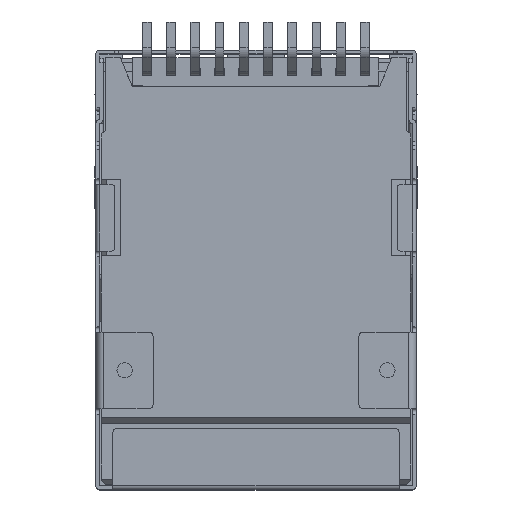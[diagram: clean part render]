
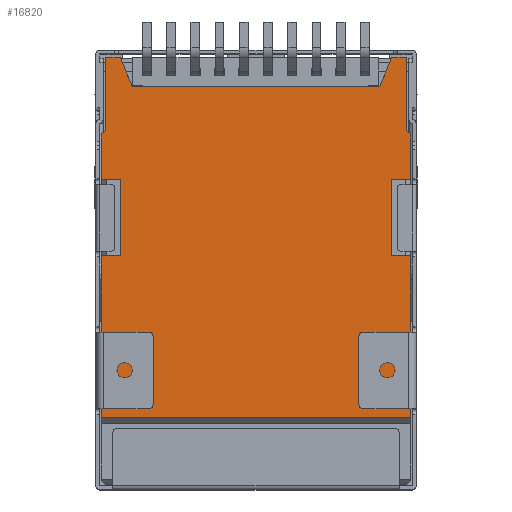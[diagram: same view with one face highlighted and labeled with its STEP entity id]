
A CAD part, top view. The second image highlights one B-rep face of the part: STEP entity #16820.
In plain terms, the highlighted planar face has unit normal (0, 0, 1).
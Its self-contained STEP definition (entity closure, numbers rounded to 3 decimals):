
#157=DIRECTION('',(0.,-1.,0.));
#158=VECTOR('',#157,3.8);
#159=CARTESIAN_POINT('',(-8.125,22.4,-3.6));
#160=LINE('',#159,#158);
#177=DIRECTION('',(0.,-1.,0.));
#178=VECTOR('',#177,3.8);
#179=CARTESIAN_POINT('',(7.625,22.4,-3.6));
#180=LINE('',#179,#178);
#181=DIRECTION('',(0.781,-0.625,0.));
#182=VECTOR('',#181,0.32);
#183=CARTESIAN_POINT('',(7.625,18.6,-3.6));
#184=LINE('',#183,#182);
#185=DIRECTION('',(0.,-1.,0.));
#186=VECTOR('',#185,2.4);
#187=CARTESIAN_POINT('',(7.875,18.4,-3.6));
#188=LINE('',#187,#186);
#189=DIRECTION('',(0.,-1.,0.));
#190=VECTOR('',#189,4.);
#191=CARTESIAN_POINT('',(6.875,16.,-3.6));
#192=LINE('',#191,#190);
#193=DIRECTION('',(1.,0.,0.));
#194=VECTOR('',#193,1.);
#195=CARTESIAN_POINT('',(6.875,12.,-3.6));
#196=LINE('',#195,#194);
#197=DIRECTION('',(0.,-1.,0.));
#198=VECTOR('',#197,8.45);
#199=CARTESIAN_POINT('',(7.875,12.,-3.6));
#200=LINE('',#199,#198);
#201=DIRECTION('',(1.,0.,0.));
#202=VECTOR('',#201,1.);
#203=CARTESIAN_POINT('',(-8.375,12.,-3.6));
#204=LINE('',#203,#202);
#205=DIRECTION('',(0.781,0.625,0.));
#206=VECTOR('',#205,0.32);
#207=CARTESIAN_POINT('',(-8.375,18.4,-3.6));
#208=LINE('',#207,#206);
#209=DIRECTION('',(1.,0.,0.));
#210=VECTOR('',#209,0.75);
#211=CARTESIAN_POINT('',(-8.125,22.4,-3.6));
#212=LINE('',#211,#210);
#213=DIRECTION('',(0.392,-0.92,0.));
#214=VECTOR('',#213,1.631);
#215=CARTESIAN_POINT('',(-7.375,22.4,-3.6));
#216=LINE('',#215,#214);
#217=DIRECTION('',(1.,0.,0.));
#218=VECTOR('',#217,12.97);
#219=CARTESIAN_POINT('',(-6.735,20.9,-3.6));
#220=LINE('',#219,#218);
#221=DIRECTION('',(0.392,0.92,0.));
#222=VECTOR('',#221,1.631);
#223=CARTESIAN_POINT('',(6.235,20.9,-3.6));
#224=LINE('',#223,#222);
#225=DIRECTION('',(1.,0.,0.));
#226=VECTOR('',#225,0.75);
#227=CARTESIAN_POINT('',(6.875,22.4,-3.6));
#228=LINE('',#227,#226);
#317=DIRECTION('',(1.,0.,0.));
#318=VECTOR('',#317,1.);
#319=CARTESIAN_POINT('',(6.875,16.,-3.6));
#320=LINE('',#319,#318);
#349=DIRECTION('',(0.,-1.,0.));
#350=VECTOR('',#349,8.45);
#351=CARTESIAN_POINT('',(-8.375,12.,-3.6));
#352=LINE('',#351,#350);
#377=DIRECTION('',(0.,-1.,0.));
#378=VECTOR('',#377,2.4);
#379=CARTESIAN_POINT('',(-8.375,18.4,-3.6));
#380=LINE('',#379,#378);
#401=DIRECTION('',(1.,0.,0.));
#402=VECTOR('',#401,1.);
#403=CARTESIAN_POINT('',(-8.375,16.,-3.6));
#404=LINE('',#403,#402);
#413=DIRECTION('',(0.,-1.,0.));
#414=VECTOR('',#413,4.);
#415=CARTESIAN_POINT('',(-7.375,16.,-3.6));
#416=LINE('',#415,#414);
#433=DIRECTION('',(1.,0.,0.));
#434=VECTOR('',#433,16.25);
#435=CARTESIAN_POINT('',(-8.375,3.55,-3.6));
#436=LINE('',#435,#434);
#12624=CARTESIAN_POINT('',(-7.375,22.4,-3.6));
#12626=VERTEX_POINT('',#12624);
#12633=CARTESIAN_POINT('',(6.875,22.4,-3.6));
#12634=VERTEX_POINT('',#12633);
#12635=CARTESIAN_POINT('',(7.625,22.4,-3.6));
#12636=VERTEX_POINT('',#12635);
#12637=CARTESIAN_POINT('',(-8.125,22.4,-3.6));
#12638=VERTEX_POINT('',#12637);
#12647=CARTESIAN_POINT('',(-6.735,20.9,-3.6));
#12648=VERTEX_POINT('',#12647);
#14107=CARTESIAN_POINT('',(6.235,20.9,-3.6));
#14108=VERTEX_POINT('',#14107);
#14325=CARTESIAN_POINT('',(-8.375,16.,-3.6));
#14326=VERTEX_POINT('',#14325);
#14327=CARTESIAN_POINT('',(-8.375,18.4,-3.6));
#14328=VERTEX_POINT('',#14327);
#14333=CARTESIAN_POINT('',(-8.375,3.55,-3.6));
#14334=VERTEX_POINT('',#14333);
#14335=CARTESIAN_POINT('',(-8.375,12.,-3.6));
#14336=VERTEX_POINT('',#14335);
#14341=CARTESIAN_POINT('',(-7.375,12.,-3.6));
#14342=VERTEX_POINT('',#14341);
#14345=CARTESIAN_POINT('',(7.625,18.6,-3.6));
#14346=VERTEX_POINT('',#14345);
#14347=CARTESIAN_POINT('',(-8.125,18.6,-3.6));
#14348=VERTEX_POINT('',#14347);
#14349=CARTESIAN_POINT('',(-7.375,16.,-3.6));
#14350=VERTEX_POINT('',#14349);
#14351=CARTESIAN_POINT('',(7.875,3.55,-3.6));
#14352=VERTEX_POINT('',#14351);
#14353=CARTESIAN_POINT('',(7.875,12.,-3.6));
#14354=VERTEX_POINT('',#14353);
#14355=CARTESIAN_POINT('',(6.875,12.,-3.6));
#14356=VERTEX_POINT('',#14355);
#14357=CARTESIAN_POINT('',(6.875,16.,-3.6));
#14358=VERTEX_POINT('',#14357);
#14359=CARTESIAN_POINT('',(7.875,16.,-3.6));
#14360=VERTEX_POINT('',#14359);
#14361=CARTESIAN_POINT('',(7.875,18.4,-3.6));
#14362=VERTEX_POINT('',#14361);
#16775=CARTESIAN_POINT('',(-0.25,12.975,-3.6));
#16776=DIRECTION('',(0.,0.,1.));
#16777=DIRECTION('',(1.,0.,0.));
#16778=AXIS2_PLACEMENT_3D('',#16775,#16776,#16777);
#16779=PLANE('',#16778);
#16781=ORIENTED_EDGE('',*,*,#16780,.T.);
#16783=ORIENTED_EDGE('',*,*,#16782,.T.);
#16785=ORIENTED_EDGE('',*,*,#16784,.T.);
#16787=ORIENTED_EDGE('',*,*,#16786,.F.);
#16789=ORIENTED_EDGE('',*,*,#16788,.T.);
#16791=ORIENTED_EDGE('',*,*,#16790,.T.);
#16793=ORIENTED_EDGE('',*,*,#16792,.T.);
#16795=ORIENTED_EDGE('',*,*,#16794,.F.);
#16797=ORIENTED_EDGE('',*,*,#16796,.F.);
#16799=ORIENTED_EDGE('',*,*,#16798,.T.);
#16801=ORIENTED_EDGE('',*,*,#16800,.F.);
#16803=ORIENTED_EDGE('',*,*,#16802,.F.);
#16805=ORIENTED_EDGE('',*,*,#16804,.F.);
#16806=ORIENTED_EDGE('',*,*,#16767,.T.);
#16807=ORIENTED_EDGE('',*,*,#16736,.F.);
#16809=ORIENTED_EDGE('',*,*,#16808,.T.);
#16811=ORIENTED_EDGE('',*,*,#16810,.T.);
#16813=ORIENTED_EDGE('',*,*,#16812,.T.);
#16815=ORIENTED_EDGE('',*,*,#16814,.T.);
#16817=ORIENTED_EDGE('',*,*,#16816,.T.);
#16818=EDGE_LOOP('',(#16781,#16783,#16785,#16787,#16789,#16791,#16793,#16795,
#16797,#16799,#16801,#16803,#16805,#16806,#16807,#16809,#16811,#16813,#16815,
#16817));
#16819=FACE_OUTER_BOUND('',#16818,.F.);
#16820=ADVANCED_FACE('',(#16819),#16779,.T.);
#16736=EDGE_CURVE('',#12638,#14348,#160,.T.);
#16767=EDGE_CURVE('',#14328,#14348,#208,.T.);
#16780=EDGE_CURVE('',#12636,#14346,#180,.T.);
#16782=EDGE_CURVE('',#14346,#14362,#184,.T.);
#16784=EDGE_CURVE('',#14362,#14360,#188,.T.);
#16786=EDGE_CURVE('',#14358,#14360,#320,.T.);
#16788=EDGE_CURVE('',#14358,#14356,#192,.T.);
#16790=EDGE_CURVE('',#14356,#14354,#196,.T.);
#16792=EDGE_CURVE('',#14354,#14352,#200,.T.);
#16794=EDGE_CURVE('',#14334,#14352,#436,.T.);
#16796=EDGE_CURVE('',#14336,#14334,#352,.T.);
#16798=EDGE_CURVE('',#14336,#14342,#204,.T.);
#16800=EDGE_CURVE('',#14350,#14342,#416,.T.);
#16802=EDGE_CURVE('',#14326,#14350,#404,.T.);
#16804=EDGE_CURVE('',#14328,#14326,#380,.T.);
#16808=EDGE_CURVE('',#12638,#12626,#212,.T.);
#16810=EDGE_CURVE('',#12626,#12648,#216,.T.);
#16812=EDGE_CURVE('',#12648,#14108,#220,.T.);
#16814=EDGE_CURVE('',#14108,#12634,#224,.T.);
#16816=EDGE_CURVE('',#12634,#12636,#228,.T.);
